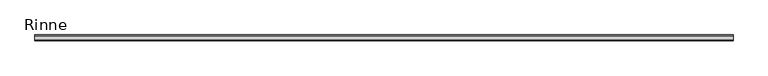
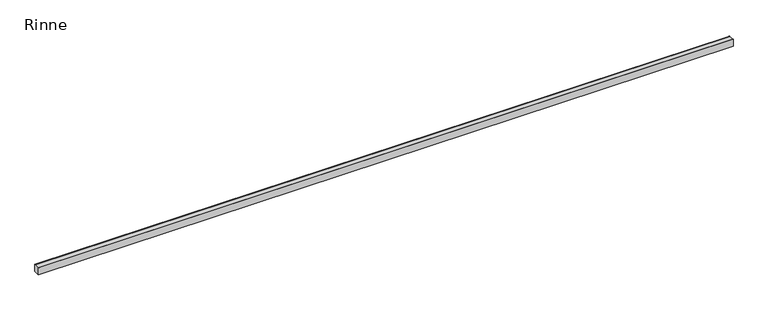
"""IFC4 building model written with IfcOpenShell, lengths in millimetres: railing geometry, Rinne."""

from ifc_helpers import new_model, si_unit, origin, place, context, project, spatial, faceted_brep, source, transform, mapped, element, save


def rinne_822a3f2f(model_context):
    return source(origin(), model_context, "Body", "Brep", [
        faceted_brep([(-11511.8892616, -5725.8978657, -100.0001782), (-11511.8892616, -5825.8978657, -100.0001782), (-11511.8892616, -5825.8978657, 20.0), (-11511.8892616, -5815.8978657, 20.0), (-11511.8892616, -5815.8978657, 16.9999955), (-11511.8892616, -5735.8978657, 16.9999955), (-11511.8892616, -5735.8978657, 20.0), (-11511.8892616, -5725.8978657, 20.0), (93.9710847, -5725.8978657, -120.0001782), (93.9710847, -5725.8978657, 0.0), (93.9710847, -5735.8978657, 0.0), (93.9710847, -5735.8978657, -3.0000045), (93.9710847, -5815.8978657, -3.0000045), (93.9710847, -5815.8978657, 0.0), (93.9710847, -5825.8978657, 0.0), (93.9710847, -5825.8978657, -120.0001782)], [[[0, 1, 2, 3, 4, 5, 6, 7]], [[8, 9, 10, 11, 12, 13, 14, 15]], [[0, 7, 9, 8]], [[1, 0, 8, 15]], [[2, 1, 15, 14]], [[3, 2, 14, 13]], [[4, 3, 13, 12]], [[5, 4, 12, 11]], [[6, 5, 11, 10]], [[7, 6, 10, 9]]]),
    ])


if __name__ == "__main__":
    model = new_model("IFC4")
    model_context = context("Model", 3, world=origin())
    ifc_project = project(units=[si_unit("LENGTHUNIT", "METRE", prefix="MILLI")], contexts=[model_context])
    site = spatial("IfcSite", under=ifc_project)
    building = spatial("IfcBuilding", under=site)
    placement = place(None, origin())
    rinne_shape = rinne_822a3f2f(model_context)
    element("IfcRailing", 1, ObjectType="Rinne", at=placement, inside=building, context=model_context, shape_type="MappedRepresentation", body=[
        mapped(rinne_shape, transform((0.0, 0.0, 0.0), x_axis=(1.0, 0.0, 0.0), y_axis=(0.0, 1.0, 0.0), z_axis=(0.0, 0.0, 1.0))),
    ])
    save(model, "model.ifc")
